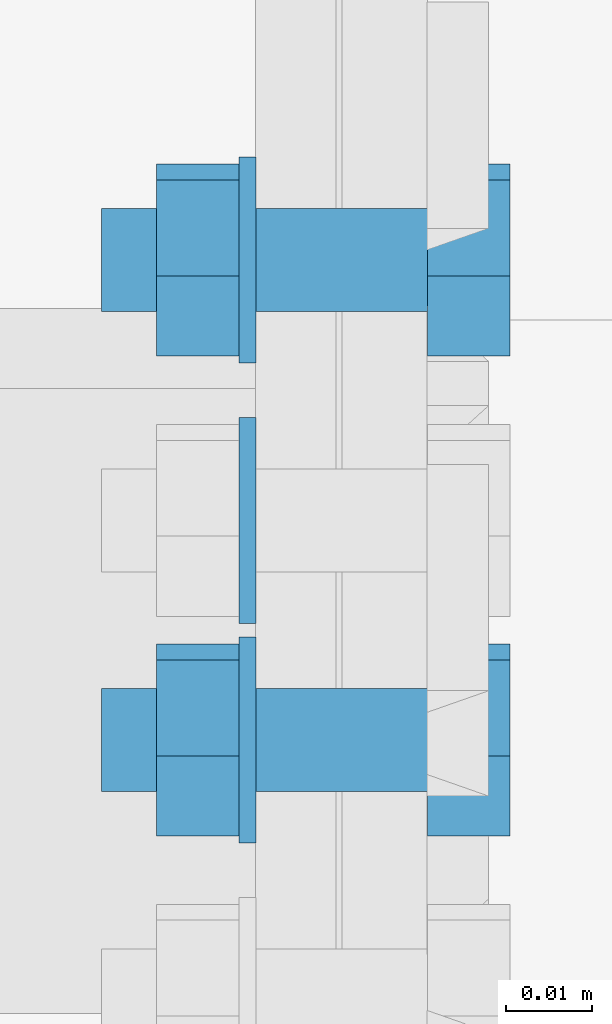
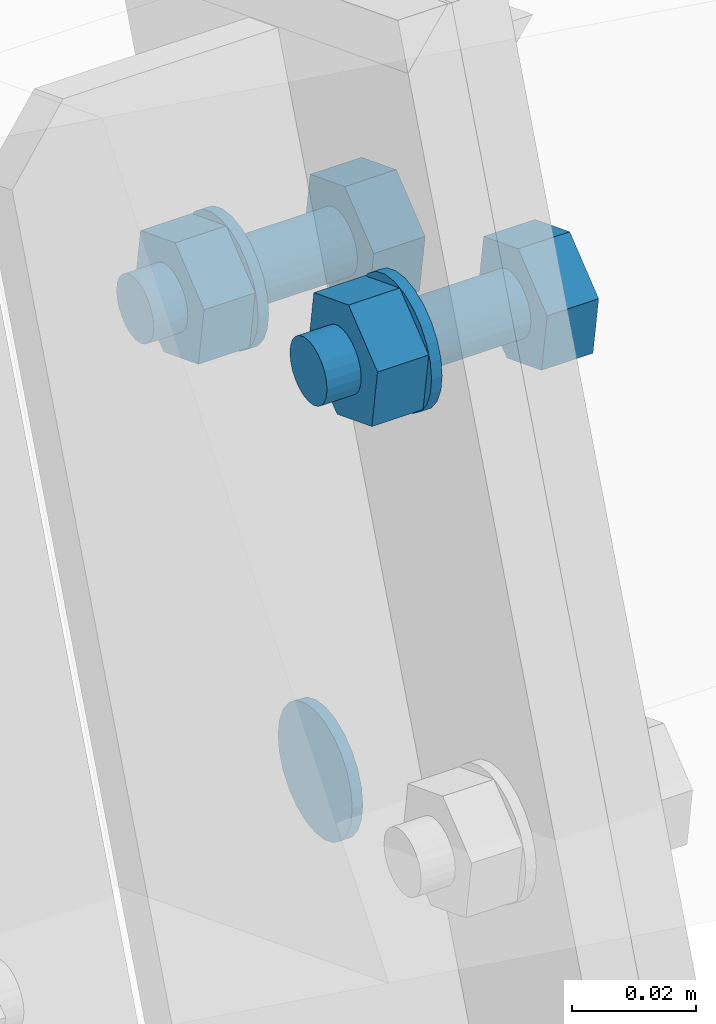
# One storey, part 29 of 72: 9 mechanical fasteners.
"""IFC4 building model written with IfcOpenShell, lengths in metres."""

import ifcopenshell
import ifcopenshell.guid

model = None  # the IFC model being written
_history = None  # IfcOwnerHistory: only IFC2X3 demands one
_inside = {}  # id of a spatial element -> (the spatial element, [elements in it])
_under = {}  # id of a project, library or spatial element -> (it, [spatial elements below it])
_declared = {}  # id of a project -> (the project, [libraries it declares])
_typed = {}  # id of a type object -> (the type object, [elements of that type])
_made_of = {}  # id of a material, layer set ... -> (it, [elements and type objects made of it])


def new_model(schema):
    """Start an empty IFC model of exactly this schema.

    Asked for "IFC4X3", IfcOpenShell would pick the latest addendum, in which some entities
    have other attributes; the version numbers below select the first issue.
    IFC2X3 requires an IfcOwnerHistory on every rooted entity: one is made here for all.
    """
    global model, _history
    if schema == "IFC4X3":
        model = ifcopenshell.file(schema_version=(4, 3, 0, 0))
    else:
        model = ifcopenshell.file(schema=schema)
    _inside.clear()
    _under.clear()
    _declared.clear()
    _typed.clear()
    _made_of.clear()
    _history = None
    if model.schema == "IFC2X3":
        org = make("IfcOrganization", Name="unknown")
        user = make(
            "IfcPersonAndOrganization",
            ThePerson=make("IfcPerson", FamilyName="unknown"),
            TheOrganization=org,
        )
        app = make(
            "IfcApplication",
            ApplicationDeveloper=org,
            Version="unknown",
            ApplicationFullName="unknown",
            ApplicationIdentifier="unknown",
        )
        _history = make(
            "IfcOwnerHistory",
            OwningUser=user,
            OwningApplication=app,
            ChangeAction="ADDED",
            CreationDate=0,
        )
    return model


def make(cls, **values):
    """One entity of the class cls with the attributes given. An attribute that is None is left unset."""
    return model.create_entity(
        cls, **{name: value for name, value in values.items() if value is not None}
    )


def rooted(cls, **values):
    """An entity with a GlobalId (a new one), such as an element, a storey or a relation."""
    return make(cls, GlobalId=ifcopenshell.guid.new(), OwnerHistory=_history, **values)


def si_unit(unit_type, name, prefix=None):
    """IfcSIUnit, for example si_unit("LENGTHUNIT", "METRE", prefix="MILLI")."""
    return make("IfcSIUnit", UnitType=unit_type, Prefix=prefix, Name=name)


def assignment(units):
    """IfcUnitAssignment: the units of a project."""
    return None if units is None else make("IfcUnitAssignment", Units=units)


def point(xyz):
    """IfcCartesianPoint."""
    return None if xyz is None else make("IfcCartesianPoint", Coordinates=xyz)


def direction(xyz):
    """IfcDirection."""
    return None if xyz is None else make("IfcDirection", DirectionRatios=xyz)


def frame(location, z_axis=None, x_axis=None):
    """IfcAxis2Placement3D, a coordinate frame: its origin and axes. An axis left out is left unset."""
    return make(
        "IfcAxis2Placement3D",
        Location=point(location),
        Axis=direction(z_axis),
        RefDirection=direction(x_axis),
    )


def origin_with_axes():
    """The frame at (0, 0, 0) with the z axis (0, 0, 1) and the x axis (1, 0, 0) written out."""
    return frame((0.0, 0.0, 0.0), z_axis=(0.0, 0.0, 1.0), x_axis=(1.0, 0.0, 0.0))


def place(relative_to, where):
    """IfcLocalPlacement: puts the frame where relative to a parent placement (None: the world)."""
    return make(
        "IfcLocalPlacement", PlacementRelTo=relative_to, RelativePlacement=where
    )


def context(
    kind, dimensions, precision=None, world=None, true_north=None, identifier=None
):
    """IfcGeometricRepresentationContext, for example the 3D "Model" context."""
    return make(
        "IfcGeometricRepresentationContext",
        ContextIdentifier=identifier,
        ContextType=kind,
        CoordinateSpaceDimension=dimensions,
        Precision=precision,
        WorldCoordinateSystem=world,
        TrueNorth=true_north,
    )


def project(units=None, contexts=None):
    """IfcProject with its units and contexts."""
    return rooted(
        "IfcProject",
        Name="project",
        RepresentationContexts=contexts,
        UnitsInContext=assignment(units),
    )


def spatial(cls, under=None, at=None, **own):
    """A site, building, storey or space (cls), placed at a placement, below another one or the project."""
    s = rooted(cls, ObjectPlacement=at, **own)
    if under is not None:
        _under.setdefault(under.id(), (under, []))[1].append(s)
    return s


def polyline(points):
    """IfcPolyline through the points."""
    return make("IfcPolyline", Points=[point(p) for p in points])


def outline(outer, holes=None, kind="AREA"):
    """IfcArbitraryClosedProfileDef: a profile drawn as a closed curve; with holes, ...WithVoids."""
    if holes is None:
        return make("IfcArbitraryClosedProfileDef", ProfileType=kind, OuterCurve=outer)
    return make(
        "IfcArbitraryProfileDefWithVoids",
        ProfileType=kind,
        OuterCurve=outer,
        InnerCurves=holes,
    )


def extrude(swept, where, along, depth):
    """IfcExtrudedAreaSolid: the profile swept, set in the frame where, extruded along a direction by depth."""
    return make(
        "IfcExtrudedAreaSolid",
        SweptArea=swept,
        Position=where,
        ExtrudedDirection=direction(along),
        Depth=depth,
    )


def shape(context_of_items, identifier, shape_type, items):
    """IfcShapeRepresentation: the items that make up one representation, for example the "Body"."""
    return make(
        "IfcShapeRepresentation",
        ContextOfItems=context_of_items,
        RepresentationIdentifier=identifier,
        RepresentationType=shape_type,
        Items=items,
    )


def made_of(thing, what):
    """Note that an element or type object is made of a material, layer set ...; save() writes the relation."""
    if what is not None:
        _made_of.setdefault(what.id(), (what, []))[1].append(thing)
    return thing


def type_object(cls, material=None, **own):
    """A type object (cls), such as IfcWallType, which elements share."""
    return made_of(rooted(cls, **own), material)


def element(
    cls,
    number,
    at=None,
    inside=None,
    cuts=None,
    type_object=None,
    material=None,
    context=None,
    identifier="Body",
    shape_type=None,
    held_by="IfcProductDefinitionShape",
    body=None,
    shapes=None,
    **own,
):
    """One element of the class cls, such as IfcWall. Its Tag is "e" and its number.

    at: its placement. inside: the storey or other place that contains it. cuts: it is an
    opening in that element (IfcRelVoidsElement). A single representation is given by context,
    identifier, shape_type and body (its items); several are given by shapes. held_by: the class
    of the entity that holds the representations. save() writes the other relations.
    """
    e = rooted(cls, Tag="e%d" % number, ObjectPlacement=at, **own)
    if body is not None:
        shapes = [shape(context, identifier, shape_type, body)]
    if shapes is not None:
        e.Representation = make(held_by, Representations=shapes)
    if inside is not None:
        _inside.setdefault(inside.id(), (inside, []))[1].append(e)
    if cuts is not None:
        rooted(
            "IfcRelVoidsElement", RelatingBuildingElement=cuts, RelatedOpeningElement=e
        )
    if type_object is not None:
        _typed.setdefault(type_object.id(), (type_object, []))[1].append(e)
    return made_of(e, material)


def aggregate(whole, parts):
    """IfcRelAggregates: a whole, such as a stair, and the parts it consists of."""
    return rooted("IfcRelAggregates", RelatingObject=whole, RelatedObjects=parts)


def save(model, path):
    """Write the relations noted so far, then the file.

    IfcRelAggregates (storeys below a building ...), IfcRelContainedInSpatialStructure (elements
    in a storey), IfcRelDefinesByType, IfcRelAssociatesMaterial and IfcRelDeclares: one each for
    every whole, place, type object, material and project.
    """
    for whole, parts in _under.values():
        aggregate(whole, parts)
    for where, things in _inside.values():
        rooted(
            "IfcRelContainedInSpatialStructure",
            RelatedElements=things,
            RelatingStructure=where,
        )
    for kind, things in _typed.values():
        rooted("IfcRelDefinesByType", RelatedObjects=things, RelatingType=kind)
    for what, things in _made_of.values():
        rooted("IfcRelAssociatesMaterial", RelatedObjects=things, RelatingMaterial=what)
    for by, libraries in _declared.values():
        rooted("IfcRelDeclares", RelatingContext=by, RelatedDefinitions=libraries)
    model.write(path)


model = new_model("IFC4")

# Units and contexts
model_context = context("Model", 3, precision=1e-05, world=origin_with_axes())
ifc_project = project(units=[si_unit("LENGTHUNIT", "METRE"), si_unit("AREAUNIT", "SQUARE_METRE"), si_unit("VOLUMEUNIT", "CUBIC_METRE"), si_unit("MASSUNIT", "GRAM", prefix="KILO"), si_unit("TIMEUNIT", "SECOND"), si_unit("PLANEANGLEUNIT", "RADIAN"), si_unit("SOLIDANGLEUNIT", "STERADIAN"), si_unit("THERMODYNAMICTEMPERATUREUNIT", "DEGREE_CELSIUS")], contexts=[model_context])

# Site, building, storey
placement_1 = place(None, origin_with_axes())
site = spatial("IfcSite", under=ifc_project, at=placement_1, Name="Italia", CompositionType="ELEMENT")
building = spatial("IfcBuilding", under=site, at=placement_1, Name="Uffici", CompositionType="ELEMENT")
storey = spatial("IfcBuildingStorey", under=building, at=placement_1, Name="Storey 0", CompositionType="ELEMENT", Elevation=0.0)

# Mechanical fasteners
mechanical_fastener_type_1 = type_object("IfcMechanicalFastenerType", Name="Collegamento -027_-028", PredefinedType="BOLT")
placement_2 = place(placement_1, origin_with_axes())
mechanical_fastener_1_placement = place(placement_2, origin_with_axes())
element("IfcMechanicalFastener", 1, at=mechanical_fastener_1_placement, inside=storey, type_object=mechanical_fastener_type_1, Name="Collegamento -027_-028", NominalDiameter=0.024, context=model_context, shape_type="SweptSolid", body=[
    extrude(outline(polyline([(0.0, 0.0), (-0.000408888, -0.00310564), (-0.00160766, -0.00600004), (-0.00351465, -0.00848532), (-0.00599992, -0.0103922), (-0.00889409, -0.011591), (-0.012, -0.0120001), (-0.0151058, -0.011591), (-0.018, -0.0103922), (-0.0204853, -0.00848532), (-0.0223923, -0.00600004), (-0.023591, -0.00310564), (-0.0239999, 0.0), (-0.023591, 0.00310564), (-0.0223923, 0.00600004), (-0.0204853, 0.00848532), (-0.018, 0.0103922), (-0.0151058, 0.011591), (-0.012, 0.0120001), (-0.00889409, 0.011591), (-0.00599992, 0.0103922), (-0.00351465, 0.00848532), (-0.00160766, 0.00600004), (-0.000408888, 0.00310564), (0.0, 0.0)])), frame((3.258, 1.62198, 6.46342), z_axis=(1.0, 0.0, 0.0), x_axis=(0.0, 1.0, 0.0)), (0.0, 0.0, 1.0), 0.00200009),
])
mechanical_fastener_type_2 = type_object("IfcMechanicalFastenerType", Name="Collegamento -027_-028", PredefinedType="BOLT")
mechanical_fastener_2_placement = place(placement_2, origin_with_axes())
element("IfcMechanicalFastener", 2, at=mechanical_fastener_2_placement, inside=storey, type_object=mechanical_fastener_type_2, Name="Collegamento -027_-028", NominalDiameter=0.0119998, context=model_context, shape_type="SweptSolid", body=[
    extrude(outline(polyline([(0.0, 0.0), (-0.0111886, 0.00433779), (-0.0130265, 0.0161963), (-0.00367582, 0.0237169), (0.00751293, 0.0193796), (0.00935078, 0.00752115), (0.0, 0.0)])), frame((3.28, 1.58623, 6.55157), z_axis=(1.0, 0.0, 0.0), x_axis=(0.0, 1.0, 0.0)), (0.0, 0.0, 1.0), 0.00959992),
])
mechanical_fastener_type_3 = type_object("IfcMechanicalFastenerType", Name="Collegamento -027_-028", PredefinedType="BOLT")
mechanical_fastener_3_placement = place(placement_2, origin_with_axes())
element("IfcMechanicalFastener", 3, at=mechanical_fastener_3_placement, inside=storey, type_object=mechanical_fastener_type_3, Name="Collegamento -027_-028", NominalDiameter=0.012, context=model_context, shape_type="SweptSolid", body=[
    extrude(outline(polyline([(0.0, 0.0), (-0.000204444, -0.00155306), (-0.000803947, -0.00299978), (-0.00175738, -0.00424242), (-0.00300002, -0.00519609), (-0.0044471, -0.00579548), (-0.00600004, -0.00600004), (-0.00755298, -0.00579548), (-0.00900006, -0.00519609), (-0.0102427, -0.00424242), (-0.0111961, -0.00299978), (-0.0117956, -0.00155306), (-0.0120001, 0.0), (-0.0117956, 0.00155306), (-0.0111961, 0.00299978), (-0.0102427, 0.00424242), (-0.00900006, 0.00519609), (-0.00755298, 0.00579548), (-0.00600004, 0.00600004), (-0.0044471, 0.00579548), (-0.00300002, 0.00519609), (-0.00175738, 0.00424242), (-0.000803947, 0.00299978), (-0.000204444, 0.00155306), (0.0, 0.0)])), frame((3.242, 1.5904, 6.56343), z_axis=(1.0, 0.0, 0.0), x_axis=(0.0, 1.0, 0.0)), (0.0, 0.0, 1.0), 0.0379999),
])
mechanical_fastener_type_4 = type_object("IfcMechanicalFastenerType", Name="Collegamento -027_-028", PredefinedType="BOLT")
mechanical_fastener_4_placement = place(placement_2, origin_with_axes())
element("IfcMechanicalFastener", 4, at=mechanical_fastener_4_placement, inside=storey, type_object=mechanical_fastener_type_4, Name="Collegamento -027_-028", NominalDiameter=0.0119998, context=model_context, shape_type="SweptSolid", body=[
    extrude(outline(polyline([(0.0, 0.0), (-0.0111886, 0.00433779), (-0.0130265, 0.0161963), (-0.00367582, 0.0237169), (0.00751293, 0.0193796), (0.00935078, 0.00752115), (0.0, 0.0)])), frame((3.2484, 1.58623, 6.55157), z_axis=(1.0, 0.0, 0.0), x_axis=(0.0, 1.0, 0.0)), (0.0, 0.0, 1.0), 0.00959992),
])
mechanical_fastener_type_5 = type_object("IfcMechanicalFastenerType", Name="Collegamento -027_-028", PredefinedType="BOLT")
mechanical_fastener_5_placement = place(placement_2, origin_with_axes())
element("IfcMechanicalFastener", 5, at=mechanical_fastener_5_placement, inside=storey, type_object=mechanical_fastener_type_5, Name="Collegamento -027_-028", NominalDiameter=0.024, context=model_context, shape_type="SweptSolid", body=[
    extrude(outline(polyline([(0.0, 0.0), (-0.000408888, -0.00310564), (-0.00160766, -0.00600004), (-0.00351465, -0.00848532), (-0.00599992, -0.0103922), (-0.00889409, -0.011591), (-0.012, -0.0120001), (-0.0151058, -0.011591), (-0.018, -0.0103922), (-0.0204853, -0.00848532), (-0.0223923, -0.00600004), (-0.023591, -0.00310564), (-0.0239999, 0.0), (-0.023591, 0.00310564), (-0.0223923, 0.00600004), (-0.0204853, 0.00848532), (-0.018, 0.0103922), (-0.0151058, 0.011591), (-0.012, 0.0120001), (-0.00889409, 0.011591), (-0.00599992, 0.0103922), (-0.00351465, 0.00848532), (-0.00160766, 0.00600004), (-0.000408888, 0.00310564), (0.0, 0.0)])), frame((3.258, 1.5964, 6.56343), z_axis=(1.0, 0.0, 0.0), x_axis=(0.0, 1.0, 0.0)), (0.0, 0.0, 1.0), 0.00200009),
])
mechanical_fastener_type_6 = type_object("IfcMechanicalFastenerType", Name="Collegamento -027_-028", PredefinedType="BOLT")
mechanical_fastener_6_placement = place(placement_2, origin_with_axes())
element("IfcMechanicalFastener", 6, at=mechanical_fastener_6_placement, inside=storey, type_object=mechanical_fastener_type_6, Name="Collegamento -027_-028", NominalDiameter=0.0119999, context=model_context, shape_type="SweptSolid", body=[
    extrude(outline(polyline([(0.0, 0.0), (-0.0111886, 0.00433731), (-0.0130265, 0.0161958), (-0.00367582, 0.0237169), (0.00751281, 0.0193791), (0.00935078, 0.00752068), (0.0, 0.0)])), frame((3.28, 1.64218, 6.52989), z_axis=(1.0, 0.0, 0.0), x_axis=(0.0, 1.0, 0.0)), (0.0, 0.0, 1.0), 0.00959992),
])
mechanical_fastener_type_7 = type_object("IfcMechanicalFastenerType", Name="Collegamento -027_-028", PredefinedType="BOLT")
mechanical_fastener_7_placement = place(placement_2, origin_with_axes())
element("IfcMechanicalFastener", 7, at=mechanical_fastener_7_placement, inside=storey, type_object=mechanical_fastener_type_7, Name="Collegamento -027_-028", NominalDiameter=0.012, context=model_context, shape_type="SweptSolid", body=[
    extrude(outline(polyline([(0.0, 0.0), (-0.000204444, -0.00155306), (-0.000803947, -0.00299978), (-0.00175738, -0.00424242), (-0.00300002, -0.00519609), (-0.0044471, -0.00579548), (-0.00600004, -0.00600004), (-0.00755298, -0.00579548), (-0.00900006, -0.00519609), (-0.0102427, -0.00424242), (-0.0111961, -0.00299978), (-0.0117956, -0.00155306), (-0.0120001, 0.0), (-0.0117956, 0.00155306), (-0.0111961, 0.00299978), (-0.0102427, 0.00424242), (-0.00900006, 0.00519609), (-0.00755298, 0.00579548), (-0.00600004, 0.00600004), (-0.0044471, 0.00579548), (-0.00300002, 0.00519609), (-0.00175738, 0.00424242), (-0.000803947, 0.00299978), (-0.000204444, 0.00155306), (0.0, 0.0)])), frame((3.242, 1.64634, 6.54174), z_axis=(1.0, 0.0, 0.0), x_axis=(0.0, 1.0, 0.0)), (0.0, 0.0, 1.0), 0.0379999),
])
mechanical_fastener_type_8 = type_object("IfcMechanicalFastenerType", Name="Collegamento -027_-028", PredefinedType="BOLT")
mechanical_fastener_8_placement = place(placement_2, origin_with_axes())
element("IfcMechanicalFastener", 8, at=mechanical_fastener_8_placement, inside=storey, type_object=mechanical_fastener_type_8, Name="Collegamento -027_-028", NominalDiameter=0.0119999, context=model_context, shape_type="SweptSolid", body=[
    extrude(outline(polyline([(0.0, 0.0), (-0.0111886, 0.00433731), (-0.0130265, 0.0161958), (-0.00367582, 0.0237169), (0.00751281, 0.0193791), (0.00935078, 0.00752068), (0.0, 0.0)])), frame((3.2484, 1.64218, 6.52989), z_axis=(1.0, 0.0, 0.0), x_axis=(0.0, 1.0, 0.0)), (0.0, 0.0, 1.0), 0.00959992),
])
mechanical_fastener_type_9 = type_object("IfcMechanicalFastenerType", Name="Collegamento -027_-028", PredefinedType="BOLT")
mechanical_fastener_9_placement = place(placement_2, origin_with_axes())
element("IfcMechanicalFastener", 9, at=mechanical_fastener_9_placement, inside=storey, type_object=mechanical_fastener_type_9, Name="Collegamento -027_-028", NominalDiameter=0.024, context=model_context, shape_type="SweptSolid", body=[
    extrude(outline(polyline([(0.0, 0.0), (-0.000408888, -0.00310564), (-0.00160766, -0.00600004), (-0.00351465, -0.00848532), (-0.00599992, -0.0103922), (-0.00889409, -0.011591), (-0.012, -0.0120001), (-0.0151058, -0.011591), (-0.018, -0.0103922), (-0.0204853, -0.00848532), (-0.0223923, -0.00600004), (-0.023591, -0.00310564), (-0.0239999, 0.0), (-0.023591, 0.00310564), (-0.0223923, 0.00600004), (-0.0204853, 0.00848532), (-0.018, 0.0103922), (-0.0151058, 0.011591), (-0.012, 0.0120001), (-0.00889409, 0.011591), (-0.00599992, 0.0103922), (-0.00351465, 0.00848532), (-0.00160766, 0.00600004), (-0.000408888, 0.00310564), (0.0, 0.0)])), frame((3.258, 1.65234, 6.54174), z_axis=(1.0, 0.0, 0.0), x_axis=(0.0, 1.0, 0.0)), (0.0, 0.0, 1.0), 0.00200009),
])

save(model, "model.ifc")
